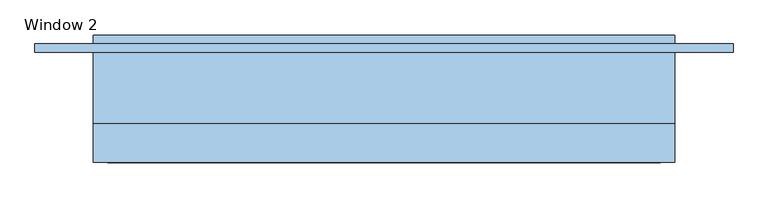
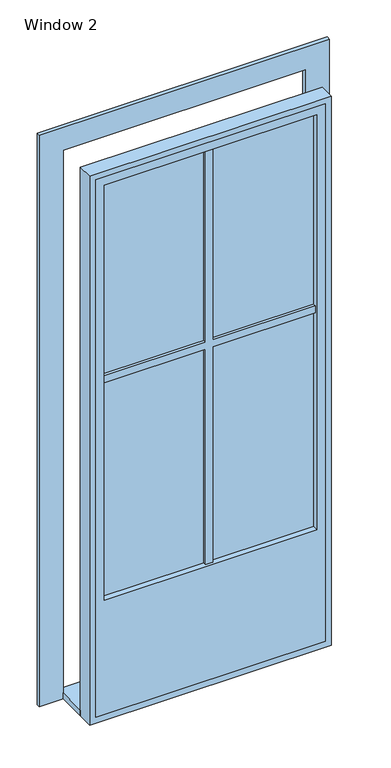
"""IFC4 building model written with IfcOpenShell, lengths in millimetres: window geometry, Window 2 : 1000/2400."""

from ifc_helpers import new_model, si_unit, frame, origin, origin_with_axes, place, context, project, spatial, polyline, outline, extrude, source, transform, mapped, element, save


def window_2_53780d15(model_context):
    return source(origin(), model_context, "Body", "SweptSolid", [
        extrude(outline(polyline([(500.0, 26.9623738), (-500.0, 26.9623738), (-500.0, 180.0), (500.0, 180.0), (500.0, 26.9623738)])), origin_with_axes(), (0.0, 0.0, 1.0), 25.0),
        extrude(outline(polyline([(2375.0, -475.0), (25.0, -475.0), (25.0, 475.0), (2375.0, 475.0), (2375.0, -475.0)]), holes=[polyline([(2340.0, -440.0), (2340.0, 440.0), (525.0, 440.0), (525.0, -440.0), (2340.0, -440.0)])]), frame((0.0, -39.0188131, 0.0), z_axis=(0.0, 1.0, 0.0), x_axis=(0.0, 0.0, 1.0)), (0.0, 0.0, 1.0), 50.5),
        extrude(outline(polyline([(0.0, -500.0), (0.0, 500.0), (2400.0, 500.0), (2400.0, -500.0), (0.0, -500.0)]), holes=[polyline([(25.0, -475.0), (2375.0, -475.0), (2375.0, 475.0), (25.0, 475.0), (25.0, -475.0)])]), frame((0.0, -39.0188131, 0.0), z_axis=(0.0, 1.0, 0.0), x_axis=(0.0, 0.0, 1.0)), (0.0, 0.0, 1.0), 65.9811869),
        extrude(outline(polyline([(2400.0, -500.0), (2400.0, 500.0), (0.0, 500.0), (0.0, 600.0), (2500.0, 600.0), (2500.0, -600.0), (0.0, -600.0), (0.0, -500.0), (2400.0, -500.0)])), frame((0.0, 150.0, 0.0), z_axis=(0.0, 1.0, 0.0), x_axis=(0.0, 0.0, 1.0)), (0.0, 0.0, 1.0), 15.0),
        extrude(outline(polyline([(1497.5, 440.0), (1497.5, 15.0), (2340.0, 15.0), (2340.0, -15.0), (1497.5, -15.0), (1497.5, -440.0), (1467.5, -440.0), (1467.5, -15.0), (525.0, -15.0), (525.0, 15.0), (1467.5, 15.0), (1467.5, 440.0), (1497.5, 440.0)])), frame((0.0, -28.5188131, 0.0), z_axis=(0.0, 1.0, 0.0), x_axis=(0.0, 0.0, 1.0)), (0.0, 0.0, 1.0), 20.0),
        extrude(outline(polyline([(440.0, -15.5188131), (-440.0, -15.5188131), (-440.0, -13.5188131), (440.0, -13.5188131), (440.0, -15.5188131)])), frame((0.0, 0.0, 525.0), z_axis=(0.0, 0.0, 1.0), x_axis=(1.0, 0.0, 0.0)), (0.0, 0.0, 1.0), 1815.0),
    ])


if __name__ == "__main__":
    model = new_model("IFC4")
    model_context = context("Model", 3, world=origin())
    ifc_project = project(units=[si_unit("LENGTHUNIT", "METRE", prefix="MILLI")], contexts=[model_context])
    site = spatial("IfcSite", under=ifc_project)
    building = spatial("IfcBuilding", under=site)
    placement = place(None, origin())
    window_2_shape = window_2_53780d15(model_context)
    element("IfcWindow", 1, ObjectType="Window 2 : 1000/2400", at=placement, inside=building, context=model_context, shape_type="MappedRepresentation", body=[
        mapped(window_2_shape, transform((0.0, 0.0, 0.0), x_axis=(1.0, 0.0, 0.0), y_axis=(0.0, 1.0, 0.0), z_axis=(0.0, 0.0, 1.0))),
    ])
    save(model, "model.ifc")
